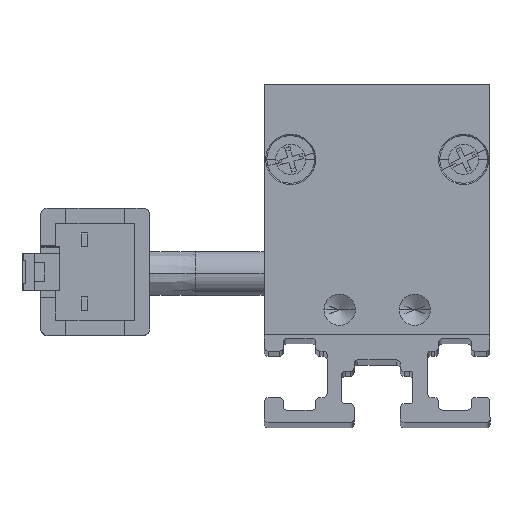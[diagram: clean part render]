
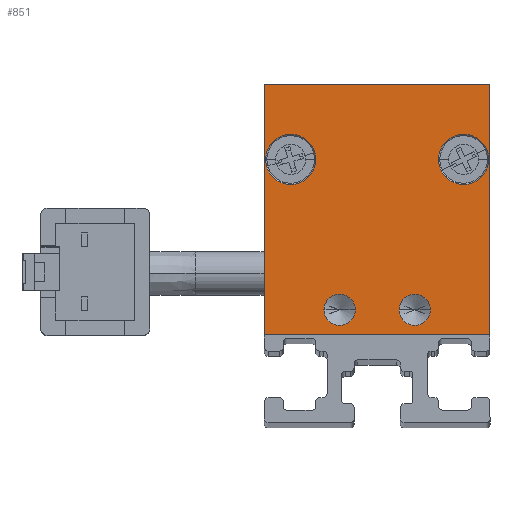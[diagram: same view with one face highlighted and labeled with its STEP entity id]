
A CAD part, top view. The second image highlights one B-rep face of the part: STEP entity #851.
In plain terms, the highlighted planar face has unit normal (0, 0, 1) as drawn and (0, 0, -1) by its records, which use the part's own axes.
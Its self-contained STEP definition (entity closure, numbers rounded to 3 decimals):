
#168 = ORIENTED_EDGE ( 'NONE', *, *, #2563, .F. ) ;
#172 = VERTEX_POINT ( 'NONE', #6684 ) ;
#204 = CARTESIAN_POINT ( 'NONE',  ( 9., 20., -2.5 ) ) ;
#469 = AXIS2_PLACEMENT_3D ( 'NONE', #7948, #7054, #11126 ) ;
#496 = AXIS2_PLACEMENT_3D ( 'NONE', #3370, #6136, #11958 ) ;
#502 = LINE ( 'NONE', #5029, #9809 ) ;
#679 = EDGE_LOOP ( 'NONE', ( #5270, #8446 ) ) ;
#815 = VERTEX_POINT ( 'NONE', #2928 ) ;
#851 = ADVANCED_FACE ( 'NONE', ( #6015, #3994, #9751, #1183, #7844 ), #10769, .F. ) ;
#1013 = VERTEX_POINT ( 'NONE', #8465 ) ;
#1077 = ORIENTED_EDGE ( 'NONE', *, *, #4623, .F. ) ;
#1183 = FACE_BOUND ( 'NONE', #8434, .T. ) ;
#1450 = CARTESIAN_POINT ( 'NONE',  ( 8.9, 14., -2.5 ) ) ;
#1556 = ORIENTED_EDGE ( 'NONE', *, *, #2189, .F. ) ;
#1559 = VERTEX_POINT ( 'NONE', #1903 ) ;
#1588 = CARTESIAN_POINT ( 'NONE',  ( -6.9, 14., -2.5 ) ) ;
#1605 = CIRCLE ( 'NONE', #5015, 2. ) ;
#1634 = EDGE_LOOP ( 'NONE', ( #1556, #6095, #1077, #9566 ) ) ;
#1639 = DIRECTION ( 'NONE',  ( 0., 0., -1. ) ) ;
#1716 = CARTESIAN_POINT ( 'NONE',  ( 6.9, 14., -2.5 ) ) ;
#1843 = EDGE_CURVE ( 'NONE', #172, #3078, #4156, .T. ) ;
#1903 = CARTESIAN_POINT ( 'NONE',  ( -4.25, 2., -2.5 ) ) ;
#1938 = EDGE_CURVE ( 'NONE', #1559, #3383, #7569, .T. ) ;
#2137 = VERTEX_POINT ( 'NONE', #1450 ) ;
#2159 = CIRCLE ( 'NONE', #9410, 1.25 ) ;
#2189 = EDGE_CURVE ( 'NONE', #2705, #1013, #502, .T. ) ;
#2272 = LINE ( 'NONE', #4020, #8412 ) ;
#2441 = DIRECTION ( 'NONE',  ( 0., 0., 1. ) ) ;
#2473 = DIRECTION ( 'NONE',  ( -1., 0., 0. ) ) ;
#2509 = EDGE_CURVE ( 'NONE', #3078, #172, #2159, .T. ) ;
#2563 = EDGE_CURVE ( 'NONE', #5795, #2137, #11628, .T. ) ;
#2650 = VECTOR ( 'NONE', #11582, 1000. ) ;
#2705 = VERTEX_POINT ( 'NONE', #8369 ) ;
#2826 = DIRECTION ( 'NONE',  ( -1., 0., 0. ) ) ;
#2928 = CARTESIAN_POINT ( 'NONE',  ( 9., 20., -2.5 ) ) ;
#2948 = DIRECTION ( 'NONE',  ( 0., 0., -1. ) ) ;
#3078 = VERTEX_POINT ( 'NONE', #6636 ) ;
#3249 = CARTESIAN_POINT ( 'NONE',  ( 0., 0., -2.5 ) ) ;
#3339 = AXIS2_PLACEMENT_3D ( 'NONE', #3249, #2441, #4185 ) ;
#3370 = CARTESIAN_POINT ( 'NONE',  ( -3., 2., -2.5 ) ) ;
#3383 = VERTEX_POINT ( 'NONE', #4308 ) ;
#3809 = CARTESIAN_POINT ( 'NONE',  ( -4.9, 14., -2.5 ) ) ;
#3847 = EDGE_CURVE ( 'NONE', #12304, #8754, #11666, .T. ) ;
#3974 = ORIENTED_EDGE ( 'NONE', *, *, #3847, .F. ) ;
#3994 = FACE_BOUND ( 'NONE', #9158, .T. ) ;
#4020 = CARTESIAN_POINT ( 'NONE',  ( -9., 20., -2.5 ) ) ;
#4156 = CIRCLE ( 'NONE', #9606, 1.25 ) ;
#4185 = DIRECTION ( 'NONE',  ( 1., 0., 0. ) ) ;
#4308 = CARTESIAN_POINT ( 'NONE',  ( -1.75, 2., -2.5 ) ) ;
#4328 = DIRECTION ( 'NONE',  ( 0., -1., 0. ) ) ;
#4623 = EDGE_CURVE ( 'NONE', #8795, #815, #8842, .T. ) ;
#4757 = AXIS2_PLACEMENT_3D ( 'NONE', #4902, #2948, #2826 ) ;
#4902 = CARTESIAN_POINT ( 'NONE',  ( -3., 2., -2.5 ) ) ;
#4939 = CARTESIAN_POINT ( 'NONE',  ( 9., 0., -2.5 ) ) ;
#4954 = EDGE_CURVE ( 'NONE', #815, #2705, #2272, .T. ) ;
#5015 = AXIS2_PLACEMENT_3D ( 'NONE', #1588, #5421, #2473 ) ;
#5029 = CARTESIAN_POINT ( 'NONE',  ( -9., 20., -2.5 ) ) ;
#5270 = ORIENTED_EDGE ( 'NONE', *, *, #1843, .F. ) ;
#5421 = DIRECTION ( 'NONE',  ( 0., 0., -1. ) ) ;
#5489 = CARTESIAN_POINT ( 'NONE',  ( 3., 2., -2.5 ) ) ;
#5552 = DIRECTION ( 'NONE',  ( 0., 0., -1. ) ) ;
#5746 = DIRECTION ( 'NONE',  ( 0., 1., 0. ) ) ;
#5795 = VERTEX_POINT ( 'NONE', #8144 ) ;
#5981 = DIRECTION ( 'NONE',  ( -1., 0., 0. ) ) ;
#6015 = FACE_BOUND ( 'NONE', #10799, .T. ) ;
#6095 = ORIENTED_EDGE ( 'NONE', *, *, #4954, .F. ) ;
#6136 = DIRECTION ( 'NONE',  ( 0., 0., -1. ) ) ;
#6142 = EDGE_CURVE ( 'NONE', #8754, #12304, #1605, .T. ) ;
#6205 = AXIS2_PLACEMENT_3D ( 'NONE', #12378, #6979, #5981 ) ;
#6636 = CARTESIAN_POINT ( 'NONE',  ( 4.25, 2., -2.5 ) ) ;
#6668 = DIRECTION ( 'NONE',  ( -1., 0., 0. ) ) ;
#6684 = CARTESIAN_POINT ( 'NONE',  ( 1.75, 2., -2.5 ) ) ;
#6729 = ORIENTED_EDGE ( 'NONE', *, *, #8173, .F. ) ;
#6979 = DIRECTION ( 'NONE',  ( 0., 0., -1. ) ) ;
#6990 = VECTOR ( 'NONE', #5746, 1000. ) ;
#7054 = DIRECTION ( 'NONE',  ( 0., 0., -1. ) ) ;
#7381 = EDGE_CURVE ( 'NONE', #1013, #8795, #10572, .T. ) ;
#7569 = CIRCLE ( 'NONE', #4757, 1.25 ) ;
#7844 = FACE_OUTER_BOUND ( 'NONE', #1634, .T. ) ;
#7937 = DIRECTION ( 'NONE',  ( -1., 0., 0. ) ) ;
#7948 = CARTESIAN_POINT ( 'NONE',  ( 6.9, 14., -2.5 ) ) ;
#8144 = CARTESIAN_POINT ( 'NONE',  ( 4.9, 14., -2.5 ) ) ;
#8173 = EDGE_CURVE ( 'NONE', #2137, #5795, #11753, .T. ) ;
#8369 = CARTESIAN_POINT ( 'NONE',  ( -9., 20., -2.5 ) ) ;
#8374 = CARTESIAN_POINT ( 'NONE',  ( 3., 2., -2.5 ) ) ;
#8412 = VECTOR ( 'NONE', #7937, 1000. ) ;
#8434 = EDGE_LOOP ( 'NONE', ( #10216, #10092 ) ) ;
#8446 = ORIENTED_EDGE ( 'NONE', *, *, #2509, .F. ) ;
#8465 = CARTESIAN_POINT ( 'NONE',  ( -9., 0., -2.5 ) ) ;
#8702 = DIRECTION ( 'NONE',  ( -1., 0., 0. ) ) ;
#8754 = VERTEX_POINT ( 'NONE', #9877 ) ;
#8795 = VERTEX_POINT ( 'NONE', #4939 ) ;
#8842 = LINE ( 'NONE', #204, #6990 ) ;
#9158 = EDGE_LOOP ( 'NONE', ( #9866, #3974 ) ) ;
#9278 = DIRECTION ( 'NONE',  ( -1., 0., 0. ) ) ;
#9410 = AXIS2_PLACEMENT_3D ( 'NONE', #5489, #11436, #6668 ) ;
#9554 = CIRCLE ( 'NONE', #496, 1.25 ) ;
#9566 = ORIENTED_EDGE ( 'NONE', *, *, #7381, .F. ) ;
#9606 = AXIS2_PLACEMENT_3D ( 'NONE', #8374, #1639, #9278 ) ;
#9682 = CARTESIAN_POINT ( 'NONE',  ( -9., 0., -2.5 ) ) ;
#9703 = EDGE_CURVE ( 'NONE', #3383, #1559, #9554, .T. ) ;
#9751 = FACE_BOUND ( 'NONE', #679, .T. ) ;
#9809 = VECTOR ( 'NONE', #4328, 1000. ) ;
#9866 = ORIENTED_EDGE ( 'NONE', *, *, #6142, .F. ) ;
#9877 = CARTESIAN_POINT ( 'NONE',  ( -8.9, 14., -2.5 ) ) ;
#10092 = ORIENTED_EDGE ( 'NONE', *, *, #9703, .F. ) ;
#10216 = ORIENTED_EDGE ( 'NONE', *, *, #1938, .F. ) ;
#10572 = LINE ( 'NONE', #9682, #2650 ) ;
#10769 = PLANE ( 'NONE',  #3339 ) ;
#10799 = EDGE_LOOP ( 'NONE', ( #168, #6729 ) ) ;
#11126 = DIRECTION ( 'NONE',  ( -1., 0., 0. ) ) ;
#11436 = DIRECTION ( 'NONE',  ( 0., 0., -1. ) ) ;
#11582 = DIRECTION ( 'NONE',  ( 1., 0., 0. ) ) ;
#11628 = CIRCLE ( 'NONE', #12441, 2. ) ;
#11666 = CIRCLE ( 'NONE', #6205, 2. ) ;
#11753 = CIRCLE ( 'NONE', #469, 2. ) ;
#11958 = DIRECTION ( 'NONE',  ( -1., 0., 0. ) ) ;
#12304 = VERTEX_POINT ( 'NONE', #3809 ) ;
#12378 = CARTESIAN_POINT ( 'NONE',  ( -6.9, 14., -2.5 ) ) ;
#12441 = AXIS2_PLACEMENT_3D ( 'NONE', #1716, #5552, #8702 ) ;
